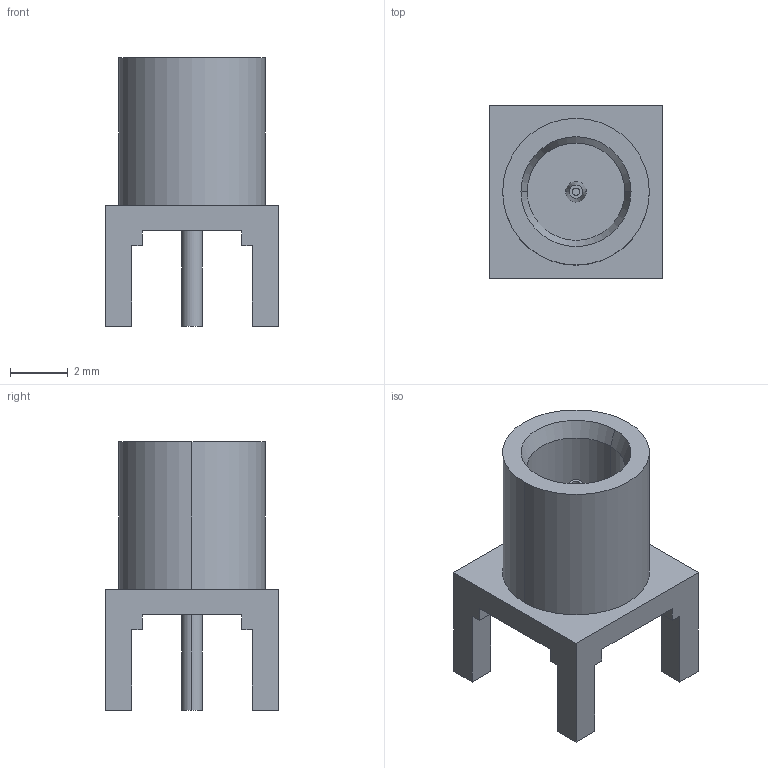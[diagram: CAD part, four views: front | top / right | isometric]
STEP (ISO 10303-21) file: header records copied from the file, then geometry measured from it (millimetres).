
FILE_DESCRIPTION (( 'STEP AP214' ), '1' );
FILE_NAME ('13DEFAU082191997468.step', '2006-08-21T13:19:06', ( 'SysAdmin' ), ( 'SolidWorks' ), 'SwSTEP 2.0', 'SolidWorks 2007', '' );
FILE_SCHEMA (( 'AUTOMOTIVE_DESIGN' ));
Length unit declared in the file: inch
Products named in the file (1): 13DEFAU082191997468
Bounding box: 5.99 x 5.99 x 9.3 mm (x, y, z)
Volume: 111.1 mm3; surface area: 286.3 mm2
Topology: 1 solids, 1 shells, 53 faces, 130 edges, 84 vertices
Faces by surface type: plane 35, cylinder 12, cone 6
Entity records: 1575 total; most frequent: CARTESIAN_POINT 268, DIRECTION 266, ORIENTED_EDGE 260, EDGE_CURVE 130, VECTOR 102, LINE 102, VERTEX_POINT 84, AXIS2_PLACEMENT_3D 82
